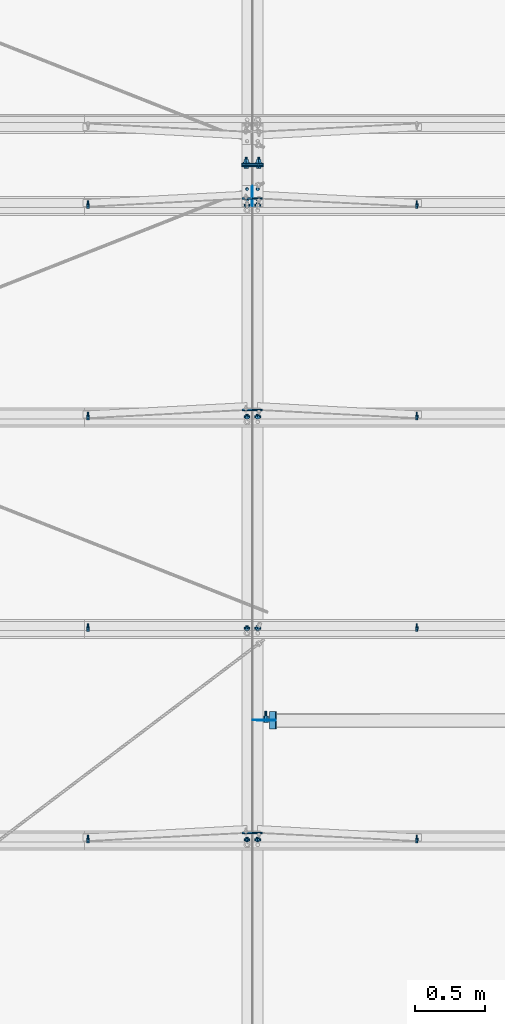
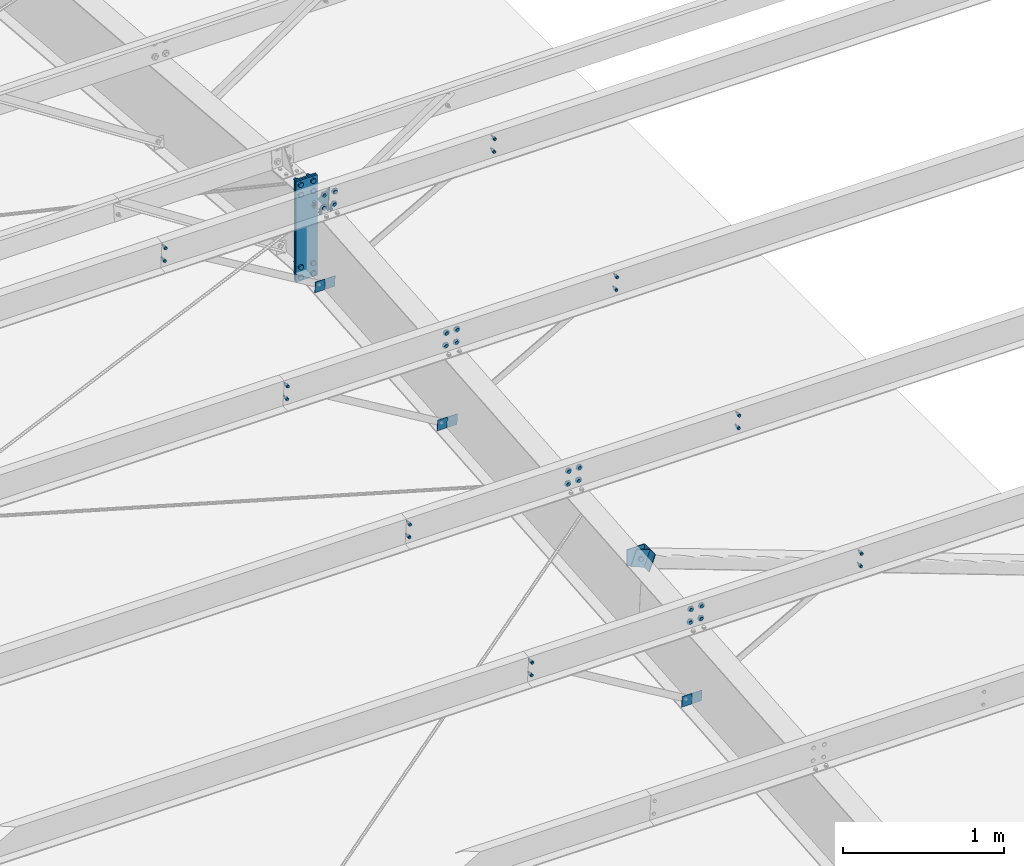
# One storey, part 107 of 185: 20 mechanical fasteners, 12 discrete accessories, 12 elements without a shape of their own.
"""IFC2X3 building model written with IfcOpenShell, lengths in millimetres."""

from ifc_helpers import new_model, si_unit, frame, origin_with_axes, origin_2d_with_axis, place, context, subcontext, project, spatial, polyline, rectangle, circle, outline, extrude, source, transform, mapped, material, type_object, element, aggregate, save


model = new_model("IFC2X3")

# Units and contexts
model_context = context("Model", 3, precision=1e-05, world=origin_with_axes())
body_context = subcontext(model_context, "Body", "Model", "MODEL_VIEW")
ifc_project = project(units=[si_unit("LENGTHUNIT", "METRE", prefix="MILLI"), si_unit("AREAUNIT", "SQUARE_METRE"), si_unit("VOLUMEUNIT", "CUBIC_METRE"), si_unit("MASSUNIT", "GRAM", prefix="KILO"), si_unit("TIMEUNIT", "SECOND"), si_unit("PLANEANGLEUNIT", "RADIAN"), si_unit("SOLIDANGLEUNIT", "STERADIAN"), si_unit("THERMODYNAMICTEMPERATUREUNIT", "DEGREE_CELSIUS"), si_unit("LUMINOUSINTENSITYUNIT", "LUMEN")], contexts=[model_context])

# Site, building, storey
site_placement = place(None, origin_with_axes())
site = spatial("IfcSite", under=ifc_project, at=site_placement, Name="Undefined", CompositionType="ELEMENT")
building_placement = place(site_placement, origin_with_axes())
building = spatial("IfcBuilding", under=site, at=building_placement, Name="Undefined", CompositionType="ELEMENT")
storey_placement = place(building_placement, origin_with_axes())
storey = spatial("IfcBuildingStorey", under=building, at=storey_placement, Name="Undefined", CompositionType="ELEMENT", Elevation=0.0)

# Assembly, mechanical fastener
assembly_1_placement = place(storey_placement, origin_with_axes())
assembly_1 = element("IfcElementAssembly", 1, at=assembly_1_placement, inside=storey, Name="Steel Assembly", AssemblyPlace="NOTDEFINED", PredefinedType="RIGID_FRAME")
ifc_material_1 = material(Name="Undefined")
discrete_accessory_type_1 = type_object("IfcDiscreteAccessoryType", Name="Bolt assembly")
shared_shape_1 = source(origin_with_axes(), body_context, "Body", "SweptSolid", [
    extrude(circle(Radius=7.14374971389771, at=origin_2d_with_axis()), frame((0.0, -1.59000001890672, 0.0), z_axis=(0.0, 1.0, 0.0), x_axis=(1.0, 0.0, 0.0)), (0.0, 0.0, 1.0), 3.3),
    extrude(circle(Radius=13.4937496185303, at=origin_2d_with_axis()), frame((0.0, -5.5587500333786, 0.0), z_axis=(0.0, 1.0, 0.0), x_axis=(1.0, 0.0, 0.0)), (0.0, 0.0, 1.0), 4.0),
    extrude(circle(Radius=22.2250003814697, at=origin_2d_with_axis()), frame((0.0, 1.5900000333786, 0.0), z_axis=(0.0, 1.0, 0.0), x_axis=(1.0, 0.0, 0.0)), (0.0, 0.0, 1.0), 7.9),
    extrude(outline(polyline([(12.8316099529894, 0.0), (6.4158049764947, 11.1125001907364), (-6.4158049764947, 11.1125001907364), (-12.8316099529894, 0.0), (-6.4158049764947, -11.1125001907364), (6.4158049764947, -11.1125001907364), (12.8316099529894, 0.0)])), frame((0.0, 9.5275000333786, 0.0), z_axis=(0.0, 1.0, 0.0), x_axis=(1.0, 0.0, 0.0)), (0.0, 0.0, 1.0), 12.3),
])
mechanical_fastener_1_placement = place(assembly_1_placement, frame((37757.1, 11146.2647809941, 6973.87931659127), z_axis=(1.0, 0.0, 0.0), x_axis=(0.0, 0.0830454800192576, -0.996545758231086)))
mechanical_fastener_1 = element("IfcMechanicalFastener", 2, at=mechanical_fastener_1_placement, type_object=discrete_accessory_type_1, material=ifc_material_1, Name="Bolt assembly", NominalDiameter=12.6999998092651, NominalLength=38.0999984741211, context=body_context, shape_type="MappedRepresentation", body=[
    mapped(shared_shape_1, transform((0.0, 0.0, 0.0))),
    mapped(shared_shape_1, transform((101.599998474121, 0.0, 0.0))),
])
aggregate(assembly_1, [mechanical_fastener_1])

assembly_2_placement = place(storey_placement, origin_with_axes())
assembly_2 = element("IfcElementAssembly", 3, at=assembly_2_placement, inside=storey, Name="Steel Assembly", AssemblyPlace="NOTDEFINED", PredefinedType="RIGID_FRAME")
mechanical_fastener_2_placement = place(assembly_2_placement, frame((37680.9, 11146.2647809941, 6973.87931659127), z_axis=(1.0, 0.0, 0.0), x_axis=(0.0, 0.0830454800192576, -0.996545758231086)))
mechanical_fastener_2 = element("IfcMechanicalFastener", 4, at=mechanical_fastener_2_placement, type_object=discrete_accessory_type_1, material=ifc_material_1, Name="Bolt assembly", NominalDiameter=12.6999998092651, NominalLength=38.0999984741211, context=body_context, shape_type="MappedRepresentation", body=[
    mapped(shared_shape_1, transform((0.0, 0.0, 0.0))),
    mapped(shared_shape_1, transform((101.599998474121, 0.0, 0.0))),
])

assembly_3_placement = place(storey_placement, origin_with_axes())
assembly_3 = element("IfcElementAssembly", 5, at=assembly_3_placement, inside=storey, Name="Steel Assembly", AssemblyPlace="NOTDEFINED", PredefinedType="RIGID_FRAME")
mechanical_fastener_3_placement = place(assembly_3_placement, frame((37757.1, 12665.0005165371, 7100.44062814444), z_axis=(1.0, 0.0, 0.0), x_axis=(0.0, 0.0830454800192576, -0.996545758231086)))
mechanical_fastener_3 = element("IfcMechanicalFastener", 6, at=mechanical_fastener_3_placement, type_object=discrete_accessory_type_1, material=ifc_material_1, Name="Bolt assembly", NominalDiameter=12.6999998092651, NominalLength=38.0999984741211, context=body_context, shape_type="MappedRepresentation", body=[
    mapped(shared_shape_1, transform((0.0, 0.0, 0.0))),
    mapped(shared_shape_1, transform((101.599998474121, 0.0, 0.0))),
])
aggregate(assembly_3, [mechanical_fastener_3])

assembly_4_placement = place(storey_placement, origin_with_axes())
assembly_4 = element("IfcElementAssembly", 7, at=assembly_4_placement, inside=storey, Name="Steel Assembly", AssemblyPlace="NOTDEFINED", PredefinedType="RIGID_FRAME")
mechanical_fastener_4_placement = place(assembly_4_placement, frame((37680.9, 12665.0005165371, 7100.44062814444), z_axis=(1.0, 0.0, 0.0), x_axis=(0.0, 0.0830454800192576, -0.996545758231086)))
mechanical_fastener_4 = element("IfcMechanicalFastener", 8, at=mechanical_fastener_4_placement, type_object=discrete_accessory_type_1, material=ifc_material_1, Name="Bolt assembly", NominalDiameter=12.6999998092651, NominalLength=38.0999984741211, context=body_context, shape_type="MappedRepresentation", body=[
    mapped(shared_shape_1, transform((0.0, 0.0, 0.0))),
    mapped(shared_shape_1, transform((101.599998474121, 0.0, 0.0))),
])

assembly_5_placement = place(storey_placement, origin_with_axes())
assembly_5 = element("IfcElementAssembly", 9, at=assembly_5_placement, inside=storey, Name="Steel Assembly", AssemblyPlace="NOTDEFINED", PredefinedType="RIGID_FRAME")
mechanical_fastener_5_placement = place(assembly_5_placement, frame((37757.1, 14183.7362520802, 7227.0019396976), z_axis=(1.0, 0.0, 0.0), x_axis=(0.0, 0.0830454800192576, -0.996545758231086)))
mechanical_fastener_5 = element("IfcMechanicalFastener", 10, at=mechanical_fastener_5_placement, type_object=discrete_accessory_type_1, material=ifc_material_1, Name="Bolt assembly", NominalDiameter=12.6999998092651, NominalLength=38.0999984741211, context=body_context, shape_type="MappedRepresentation", body=[
    mapped(shared_shape_1, transform((0.0, 0.0, 0.0))),
    mapped(shared_shape_1, transform((101.599998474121, 0.0, 0.0))),
])
aggregate(assembly_5, [mechanical_fastener_5])

assembly_6_placement = place(storey_placement, origin_with_axes())
assembly_6 = element("IfcElementAssembly", 11, at=assembly_6_placement, inside=storey, Name="Steel Assembly", AssemblyPlace="NOTDEFINED", PredefinedType="RIGID_FRAME")
mechanical_fastener_6_placement = place(assembly_6_placement, frame((37680.9, 14183.7362520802, 7227.0019396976), z_axis=(1.0, 0.0, 0.0), x_axis=(0.0, 0.0830454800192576, -0.996545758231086)))
mechanical_fastener_6 = element("IfcMechanicalFastener", 12, at=mechanical_fastener_6_placement, type_object=discrete_accessory_type_1, material=ifc_material_1, Name="Bolt assembly", NominalDiameter=12.6999998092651, NominalLength=38.0999984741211, context=body_context, shape_type="MappedRepresentation", body=[
    mapped(shared_shape_1, transform((0.0, 0.0, 0.0))),
    mapped(shared_shape_1, transform((101.599998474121, 0.0, 0.0))),
])

assembly_7_placement = place(storey_placement, origin_with_axes())
assembly_7 = element("IfcElementAssembly", 13, at=assembly_7_placement, inside=storey, Name="Steel Assembly", AssemblyPlace="NOTDEFINED", PredefinedType="RIGID_FRAME")
mechanical_fastener_7_placement = place(assembly_7_placement, frame((37757.1, 15702.4719876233, 7353.56325125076), z_axis=(1.0, 0.0, 0.0), x_axis=(0.0, 0.0830454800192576, -0.996545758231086)))
mechanical_fastener_7 = element("IfcMechanicalFastener", 14, at=mechanical_fastener_7_placement, type_object=discrete_accessory_type_1, material=ifc_material_1, Name="Bolt assembly", NominalDiameter=12.6999998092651, NominalLength=38.0999984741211, context=body_context, shape_type="MappedRepresentation", body=[
    mapped(shared_shape_1, transform((0.0, 0.0, 0.0))),
    mapped(shared_shape_1, transform((101.599998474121, 0.0, 0.0))),
])
aggregate(assembly_7, [mechanical_fastener_7])

assembly_8_placement = place(storey_placement, origin_with_axes())
assembly_8 = element("IfcElementAssembly", 15, at=assembly_8_placement, inside=storey, Name="Steel Assembly", AssemblyPlace="NOTDEFINED", PredefinedType="RIGID_FRAME")
mechanical_fastener_8_placement = place(assembly_8_placement, frame((37680.9, 15702.4719876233, 7353.56325125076), z_axis=(1.0, 0.0, 0.0), x_axis=(0.0, 0.0830454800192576, -0.996545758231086)))
mechanical_fastener_8 = element("IfcMechanicalFastener", 16, at=mechanical_fastener_8_placement, type_object=discrete_accessory_type_1, material=ifc_material_1, Name="Bolt assembly", NominalDiameter=12.6999998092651, NominalLength=38.0999984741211, context=body_context, shape_type="MappedRepresentation", body=[
    mapped(shared_shape_1, transform((0.0, 0.0, 0.0))),
    mapped(shared_shape_1, transform((101.599998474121, 0.0, 0.0))),
])

# Assembly, discrete accessories
assembly_9_placement = place(storey_placement, origin_with_axes())
assembly_9 = element("IfcElementAssembly", 17, at=assembly_9_placement, inside=storey, Name="Steel Assembly", AssemblyPlace="NOTDEFINED", PredefinedType="RIGID_FRAME")
ifc_material_2 = material(Name="STEEL/55")
discrete_accessory_type_2 = type_object("IfcDiscreteAccessoryType", Name="PLATE")
discrete_accessory_1_placement = place(assembly_9_placement, frame((37794.0748950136, 12013.7535961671, 6730.43175665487), z_axis=(-0.938292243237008, 0.000372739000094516, 0.345843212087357), x_axis=(0.345843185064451, -0.000137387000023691, 0.938292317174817)))
discrete_accessory_1 = element("IfcDiscreteAccessory", 18, at=discrete_accessory_1_placement, type_object=discrete_accessory_type_2, material=ifc_material_2, Name="PLATE", ObjectType="FL1/4\"X4\"", context=body_context, shape_type="SweptSolid", body=[
    extrude(rectangle(XDim=6.35, YDim=101.6, at=origin_2d_with_axis()), frame((127.000000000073, 3.63797855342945e-12, 7.27595761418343e-12), z_axis=(-1.0, 0.0, 0.0), x_axis=(0.0, -1.0, 0.0)), (0.0, 0.0, 1.0), 127.0),
])
discrete_accessory_2_placement = place(assembly_9_placement, frame((37888.6413033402, 12013.716029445, 6830.92799354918), z_axis=(0.000397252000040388, 0.999999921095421, 0.0), x_axis=(-0.345843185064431, 0.000137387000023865, -0.938292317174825)))
discrete_accessory_2 = element("IfcDiscreteAccessory", 19, at=discrete_accessory_2_placement, type_object=discrete_accessory_type_2, material=ifc_material_2, Name="PLATE", ObjectType="FL1/4\"X5\"", context=body_context, shape_type="SweptSolid", body=[
    extrude(rectangle(XDim=6.35, YDim=127.0, at=origin_2d_with_axis()), frame((127.000000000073, 3.63797855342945e-12, 7.27595761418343e-12), z_axis=(-1.0, 0.0, 0.0), x_axis=(0.0, -1.0, 0.0)), (0.0, 0.0, 1.0), 127.0),
])

# Assembly, discrete accessory
assembly_10_placement = place(storey_placement, origin_with_axes())
assembly_10 = element("IfcElementAssembly", 20, at=assembly_10_placement, inside=storey, Name="Steel Assembly", AssemblyPlace="NOTDEFINED", PredefinedType="RIGID_FRAME")
discrete_accessory_3_placement = place(assembly_10_placement, frame((37719.0, 15853.8182223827, 7219.61919679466), z_axis=(-1.0, 0.0, 0.0), x_axis=(0.0, -0.996545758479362, -0.0830454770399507)))
discrete_accessory_3 = element("IfcDiscreteAccessory", 21, at=discrete_accessory_3_placement, type_object=discrete_accessory_type_2, material=ifc_material_2, Name="PLATE", ObjectType="FL1/4\"X5 1/4\"", context=body_context, shape_type="SweptSolid", body=[
    extrude(outline(polyline([(0.0, 0.0), (133.350006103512, 3.70164343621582e-10), (133.350006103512, 190.500000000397), (0.0, 0.0)])), frame((0.0, -9.09494701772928e-13, -3.2), z_axis=(0.0, 0.0, 1.0), x_axis=(1.0, 0.0, 0.0)), (0.0, 0.0, 1.0), 6.4),
])

# Assembly, discrete accessories
assembly_11_placement = place(storey_placement, origin_with_axes())
assembly_11 = element("IfcElementAssembly", 22, at=assembly_11_placement, inside=storey, Name="Steel Assembly", AssemblyPlace="NOTDEFINED", PredefinedType="RIGID_FRAME")
discrete_accessory_4_placement = place(assembly_11_placement, frame((37847.785937, 12016.919869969, 6821.76331804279), z_axis=(0.0, 0.0, 1.0), x_axis=(-1.0, 0.0, 0.0)))
discrete_accessory_4 = element("IfcDiscreteAccessory", 23, at=discrete_accessory_4_placement, type_object=discrete_accessory_type_2, material=ifc_material_2, Name="PLATE", ObjectType="FL1/4\"X5\"", context=body_context, shape_type="SweptSolid", body=[
    extrude(rectangle(XDim=6.35, YDim=127.0, at=origin_2d_with_axis()), frame((127.000000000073, 3.63797855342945e-12, 7.27595761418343e-12), z_axis=(-1.0, 0.0, 0.0), x_axis=(0.0, -1.0, 0.0)), (0.0, 0.0, 1.0), 127.0),
])
discrete_accessory_type_3 = type_object("IfcDiscreteAccessoryType", Name="FLANGE BRACE FLIP")
discrete_accessory_5_placement = place(assembly_11_placement, frame((37720.70815, 15761.1512342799, 6628.84524774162), z_axis=(0.0, -0.0830454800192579, 0.996545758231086), x_axis=(1.0, 0.0, 0.0)))
discrete_accessory_5 = element("IfcDiscreteAccessory", 24, at=discrete_accessory_5_placement, type_object=discrete_accessory_type_3, material=ifc_material_2, Name="FLANGE BRACE FLIP", ObjectType="PL1/8\"X2 3/4\"", context=body_context, shape_type="SweptSolid", body=[
    extrude(rectangle(XDim=3.416, YDim=85.725, at=origin_2d_with_axis()), frame((69.8499999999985, 0.0, 0.0), z_axis=(-1.0, 0.0, 0.0), x_axis=(0.0, -1.0, 0.0)), (0.0, 0.0, 1.0), 69.8),
])
discrete_accessory_6_placement = place(assembly_11_placement, frame((37717.29185, 15761.1512342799, 6628.84524774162), z_axis=(0.0, -0.0830454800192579, 0.996545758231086), x_axis=(-1.0, 0.0, 0.0)))
discrete_accessory_6 = element("IfcDiscreteAccessory", 25, at=discrete_accessory_6_placement, type_object=discrete_accessory_type_3, material=ifc_material_2, Name="FLANGE BRACE FLIP", ObjectType="PL1/8\"X2 3/4\"", context=body_context, shape_type="SweptSolid", body=[
    extrude(rectangle(XDim=3.416, YDim=85.725, at=origin_2d_with_axis()), frame((69.8499999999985, 0.0, 0.0), z_axis=(-1.0, 0.0, 0.0), x_axis=(0.0, -1.0, 0.0)), (0.0, 0.0, 1.0), 69.8),
])
discrete_accessory_7_placement = place(assembly_11_placement, frame((37720.70815, 14242.4154987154, 6502.28393644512), z_axis=(0.0, -0.0830454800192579, 0.996545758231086), x_axis=(1.0, 0.0, 0.0)))
discrete_accessory_7 = element("IfcDiscreteAccessory", 26, at=discrete_accessory_7_placement, type_object=discrete_accessory_type_3, material=ifc_material_2, Name="FLANGE BRACE FLIP", ObjectType="PL1/8\"X2 3/4\"", context=body_context, shape_type="SweptSolid", body=[
    extrude(rectangle(XDim=3.416, YDim=85.725, at=origin_2d_with_axis()), frame((69.8499999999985, 0.0, 0.0), z_axis=(-1.0, 0.0, 0.0), x_axis=(0.0, -1.0, 0.0)), (0.0, 0.0, 1.0), 69.8),
])
discrete_accessory_8_placement = place(assembly_11_placement, frame((37717.29185, 14242.4154987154, 6502.28393644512), z_axis=(0.0, -0.0830454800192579, 0.996545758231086), x_axis=(-1.0, 0.0, 0.0)))
discrete_accessory_8 = element("IfcDiscreteAccessory", 27, at=discrete_accessory_8_placement, type_object=discrete_accessory_type_3, material=ifc_material_2, Name="FLANGE BRACE FLIP", ObjectType="PL1/8\"X2 3/4\"", context=body_context, shape_type="SweptSolid", body=[
    extrude(rectangle(XDim=3.416, YDim=85.725, at=origin_2d_with_axis()), frame((69.8499999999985, 0.0, 0.0), z_axis=(-1.0, 0.0, 0.0), x_axis=(0.0, -1.0, 0.0)), (0.0, 0.0, 1.0), 69.8),
])
discrete_accessory_9_placement = place(assembly_11_placement, frame((37720.70815, 11204.9440275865, 6249.16131385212), z_axis=(0.0, -0.0830454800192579, 0.996545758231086), x_axis=(1.0, 0.0, 0.0)))
discrete_accessory_9 = element("IfcDiscreteAccessory", 28, at=discrete_accessory_9_placement, type_object=discrete_accessory_type_3, material=ifc_material_2, Name="FLANGE BRACE FLIP", ObjectType="PL1/8\"X2 3/4\"", context=body_context, shape_type="SweptSolid", body=[
    extrude(rectangle(XDim=3.416, YDim=85.725, at=origin_2d_with_axis()), frame((69.8499999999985, 0.0, 0.0), z_axis=(-1.0, 0.0, 0.0), x_axis=(0.0, -1.0, 0.0)), (0.0, 0.0, 1.0), 69.8),
])
discrete_accessory_10_placement = place(assembly_11_placement, frame((37717.29185, 11204.9440275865, 6249.16131385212), z_axis=(0.0, -0.0830454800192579, 0.996545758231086), x_axis=(-1.0, 0.0, 0.0)))
discrete_accessory_10 = element("IfcDiscreteAccessory", 29, at=discrete_accessory_10_placement, type_object=discrete_accessory_type_3, material=ifc_material_2, Name="FLANGE BRACE FLIP", ObjectType="PL1/8\"X2 3/4\"", context=body_context, shape_type="SweptSolid", body=[
    extrude(rectangle(XDim=3.416, YDim=85.725, at=origin_2d_with_axis()), frame((69.8499999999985, 0.0, 0.0), z_axis=(-1.0, 0.0, 0.0), x_axis=(0.0, -1.0, 0.0)), (0.0, 0.0, 1.0), 69.8),
])

# Mechanical fastener
shared_shape_2 = source(origin_with_axes(), body_context, "Body", "SweptSolid", [
    extrude(circle(Radius=10.3187494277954, at=origin_2d_with_axis()), frame((0.0, -0.1, 0.0), z_axis=(0.0, 1.0, 0.0), x_axis=(1.0, 0.0, 0.0)), (0.0, 0.0, 1.0), 6.4),
    extrude(circle(Radius=10.3187494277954, at=origin_2d_with_axis()), frame((0.0, -3.07500000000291, 0.0), z_axis=(0.0, 1.0, 0.0), x_axis=(1.0, 0.0, 0.0)), (0.0, 0.0, 1.0), 6.4),
    extrude(outline(polyline([(18.3308710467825, 0.0), (9.16543552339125, 15.8750000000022), (-9.16543552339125, 15.8750000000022), (-18.3308710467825, 0.0), (-9.16543552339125, -15.8750000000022), (9.16543552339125, -15.8750000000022), (18.3308710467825, 0.0)])), frame((0.0, -15.0812481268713, 0.0), z_axis=(0.0, 1.0, 0.0), x_axis=(1.0, 0.0, 0.0)), (0.0, 0.0, 1.0), 11.9),
    extrude(circle(Radius=9.52499961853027, at=origin_2d_with_axis()), frame((0.0, -3.17500610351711, 0.0), z_axis=(0.0, 1.0, 0.0), x_axis=(1.0, 0.0, 0.0)), (0.0, 0.0, 1.0), 69.8),
    extrude(circle(Radius=22.2250003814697, at=origin_2d_with_axis()), frame((0.0, 6.35000000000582, 0.0), z_axis=(0.0, 1.0, 0.0), x_axis=(1.0, 0.0, 0.0)), (0.0, 0.0, 1.0), 7.9),
    extrude(outline(polyline([(18.3308710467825, 0.0), (9.16543552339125, 15.8750000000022), (-9.16543552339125, 15.8750000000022), (-18.3308710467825, 0.0), (-9.16543552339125, -15.8750000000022), (9.16543552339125, -15.8750000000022), (18.3308710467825, 0.0)])), frame((0.0, 14.2875000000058, 0.0), z_axis=(0.0, 1.0, 0.0), x_axis=(1.0, 0.0, 0.0)), (0.0, 0.0, 1.0), 19.0),
])
mechanical_fastener_9_placement = place(assembly_9_placement, frame((37816.035937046, 12013.7448699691, 6790.01331805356), z_axis=(0.0, 0.0, -1.0), x_axis=(-1.0, 0.0, 0.0)))
mechanical_fastener_9 = element("IfcMechanicalFastener", 30, at=mechanical_fastener_9_placement, type_object=discrete_accessory_type_1, material=ifc_material_1, Name="Bolt assembly", NominalDiameter=19.0499992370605, NominalLength=69.8499984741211, context=body_context, shape_type="MappedRepresentation", body=[
    mapped(shared_shape_2, transform((0.0, 0.0, 0.0))),
])

aggregate(assembly_9, [discrete_accessory_1, discrete_accessory_2, mechanical_fastener_9])

shared_shape_3 = source(origin_with_axes(), body_context, "Body", "SweptSolid", [
    extrude(circle(Radius=7.14374971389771, at=origin_2d_with_axis()), frame((0.0, -0.0238014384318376, 0.0), z_axis=(0.0, 1.0, 0.0), x_axis=(1.0, 0.0, 0.0)), (0.0, 0.0, 1.0), 8.0),
    extrude(circle(Radius=7.14374971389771, at=origin_2d_with_axis()), frame((0.0, -6.24999999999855, 0.0), z_axis=(0.0, 1.0, 0.0), x_axis=(1.0, 0.0, 0.0)), (0.0, 0.0, 1.0), 6.4),
    extrude(outline(polyline([(10.9985221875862, 0.0), (5.4992610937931, 9.52499961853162), (-5.4992610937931, 9.52499961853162), (-10.9985221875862, 0.0), (-5.4992610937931, -9.52499961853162), (5.4992610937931, -9.52499961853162), (10.9985221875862, 0.0)])), frame((0.0, -15.8750000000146, 0.0), z_axis=(0.0, 1.0, 0.0), x_axis=(1.0, 0.0, 0.0)), (0.0, 0.0, 1.0), 9.5),
    extrude(circle(Radius=6.34999990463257, at=origin_2d_with_axis()), frame((0.0, -6.34999953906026, 0.0), z_axis=(0.0, 1.0, 0.0), x_axis=(1.0, 0.0, 0.0)), (0.0, 0.0, 1.0), 38.1),
    extrude(outline(polyline([(12.8316099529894, 0.0), (6.4158049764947, 11.1125001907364), (-6.4158049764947, 11.1125001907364), (-12.8316099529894, 0.0), (-6.4158049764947, -11.1125001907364), (6.4158049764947, -11.1125001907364), (12.8316099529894, 0.0)])), frame((0.0, 7.95019856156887, 0.0), z_axis=(0.0, 1.0, 0.0), x_axis=(1.0, 0.0, 0.0)), (0.0, 0.0, 1.0), 12.3),
])
mechanical_fastener_10_placement = place(assembly_10_placement, frame((37719.0, 15753.0965121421, 7204.85371047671), z_axis=(-1.0, 0.0, 0.0), x_axis=(0.0, 0.996545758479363, 0.0830454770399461)))
mechanical_fastener_10 = element("IfcMechanicalFastener", 31, at=mechanical_fastener_10_placement, type_object=discrete_accessory_type_1, material=ifc_material_1, Name="Bolt assembly", NominalDiameter=12.6999998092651, NominalLength=38.0999984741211, context=body_context, shape_type="MappedRepresentation", body=[
    mapped(shared_shape_3, transform((0.0, 0.0, -38.0999984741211))),
    mapped(shared_shape_3, transform((76.1999969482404, -1.38243194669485e-10, -38.0999984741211))),
    mapped(shared_shape_3, transform((0.0, 0.0, 38.0999984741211))),
    mapped(shared_shape_3, transform((76.1999969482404, -1.38243194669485e-10, 38.0999984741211))),
])

aggregate(assembly_10, [mechanical_fastener_10, discrete_accessory_3])

shared_shape_4 = source(origin_with_axes(), body_context, "Body", "SweptSolid", [
    extrude(circle(Radius=10.3187494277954, at=origin_2d_with_axis()), frame((0.0, -0.1, 0.0), z_axis=(0.0, 1.0, 0.0), x_axis=(1.0, 0.0, 0.0)), (0.0, 0.0, 1.0), 12.8),
    extrude(circle(Radius=10.3187494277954, at=origin_2d_with_axis()), frame((0.0, -12.5999999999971, 0.0), z_axis=(0.0, 1.0, 0.0), x_axis=(1.0, 0.0, 0.0)), (0.0, 0.0, 1.0), 12.7),
    extrude(outline(polyline([(18.3308710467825, 0.0), (9.16543552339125, 15.8750000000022), (-9.16543552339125, 15.8750000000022), (-18.3308710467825, 0.0), (-9.16543552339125, -15.8750000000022), (9.16543552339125, -15.8750000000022), (18.3308710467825, 0.0)])), frame((0.0, -24.6062499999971, 0.0), z_axis=(0.0, 1.0, 0.0), x_axis=(1.0, 0.0, 0.0)), (0.0, 0.0, 1.0), 11.9),
    extrude(circle(Radius=9.52499961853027, at=origin_2d_with_axis()), frame((0.0, -12.6999999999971, 0.0), z_axis=(0.0, 1.0, 0.0), x_axis=(1.0, 0.0, 0.0)), (0.0, 0.0, 1.0), 69.8),
    extrude(circle(Radius=22.2250003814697, at=origin_2d_with_axis()), frame((0.0, 12.6999999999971, 0.0), z_axis=(0.0, 1.0, 0.0), x_axis=(1.0, 0.0, 0.0)), (0.0, 0.0, 1.0), 7.9),
    extrude(outline(polyline([(18.3308710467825, 0.0), (9.16543552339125, 15.8750000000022), (-9.16543552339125, 15.8750000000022), (-18.3308710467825, 0.0), (-9.16543552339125, -15.8750000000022), (9.16543552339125, -15.8750000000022), (18.3308710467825, 0.0)])), frame((0.0, 20.6374999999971, 0.0), z_axis=(0.0, 1.0, 0.0), x_axis=(1.0, 0.0, 0.0)), (0.0, 0.0, 1.0), 19.0),
])
mechanical_fastener_11_placement = place(assembly_11_placement, frame((37719.0, 16001.9999999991, 6561.9804128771), z_axis=(-1.0, 0.0, 0.0), x_axis=(0.0, 0.0, 1.0)))
mechanical_fastener_11 = element("IfcMechanicalFastener", 32, at=mechanical_fastener_11_placement, type_object=discrete_accessory_type_1, material=ifc_material_1, Name="Bolt assembly", NominalDiameter=19.0499992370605, NominalLength=69.8499984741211, context=body_context, shape_type="MappedRepresentation", body=[
    mapped(shared_shape_4, transform((0.0, 0.0, -44.4500007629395))),
    mapped(shared_shape_4, transform((76.1999969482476, 0.0, -44.4500007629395))),
    mapped(shared_shape_4, transform((0.0, 0.0, 44.4500007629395))),
    mapped(shared_shape_4, transform((76.1999969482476, 0.0, 44.4500007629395))),
])

mechanical_fastener_12_placement = place(assembly_11_placement, frame((37719.0, 16001.9999999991, 7262.06791218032), z_axis=(1.0, 0.0, 0.0), x_axis=(0.0, 0.0, -1.0)))
mechanical_fastener_12 = element("IfcMechanicalFastener", 33, at=mechanical_fastener_12_placement, type_object=discrete_accessory_type_1, material=ifc_material_1, Name="Bolt assembly", NominalDiameter=19.0499992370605, NominalLength=69.8499984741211, context=body_context, shape_type="MappedRepresentation", body=[
    mapped(shared_shape_4, transform((0.0, 0.0, -44.4500007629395))),
    mapped(shared_shape_4, transform((76.1999969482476, 0.0, -44.4500007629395))),
    mapped(shared_shape_4, transform((0.0, 0.0, 44.4500007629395))),
    mapped(shared_shape_4, transform((76.1999969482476, 0.0, 44.4500007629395))),
])

shared_shape_5 = source(origin_with_axes(), body_context, "Body", "SweptSolid", [
    extrude(circle(Radius=7.14374971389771, at=origin_2d_with_axis()), frame((0.0, -1.4900000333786, 0.0), z_axis=(0.0, 1.0, 0.0), x_axis=(1.0, 0.0, 0.0)), (0.0, 0.0, 1.0), 3.2),
    extrude(circle(Radius=7.14374971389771, at=origin_2d_with_axis()), frame((0.0, -1.69000003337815, 0.0), z_axis=(0.0, 1.0, 0.0), x_axis=(1.0, 0.0, 0.0)), (0.0, 0.0, 1.0), 3.3),
    extrude(outline(polyline([(10.9985221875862, 0.0), (5.4992610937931, 9.52499961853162), (-5.4992610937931, 9.52499961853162), (-10.9985221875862, 0.0), (-5.4992610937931, -9.52499961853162), (5.4992610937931, -9.52499961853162), (10.9985221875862, 0.0)])), frame((0.0, -11.1149996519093, 0.0), z_axis=(0.0, 1.0, 0.0), x_axis=(1.0, 0.0, 0.0)), (0.0, 0.0, 1.0), 9.5),
    extrude(circle(Radius=6.34999990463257, at=origin_2d_with_axis()), frame((0.0, -1.59000001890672, 0.0), z_axis=(0.0, 1.0, 0.0), x_axis=(1.0, 0.0, 0.0)), (0.0, 0.0, 1.0), 38.1),
    extrude(outline(polyline([(12.8316099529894, 0.0), (6.4158049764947, 11.1125001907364), (-6.4158049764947, 11.1125001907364), (-12.8316099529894, 0.0), (-6.4158049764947, -11.1125001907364), (6.4158049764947, -11.1125001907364), (12.8316099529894, 0.0)])), frame((0.0, 1.5900000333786, 0.0), z_axis=(0.0, 1.0, 0.0), x_axis=(1.0, 0.0, 0.0)), (0.0, 0.0, 1.0), 12.3),
])
mechanical_fastener_13_placement = place(assembly_2_placement, frame((38900.1, 11146.2647809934, 6973.87931658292), z_axis=(1.0, 0.0, 0.0), x_axis=(0.0, 0.0830454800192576, -0.996545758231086)))
mechanical_fastener_13 = element("IfcMechanicalFastener", 34, at=mechanical_fastener_13_placement, type_object=discrete_accessory_type_1, material=ifc_material_1, Name="Bolt assembly", NominalDiameter=12.6999998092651, NominalLength=38.0999984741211, context=body_context, shape_type="MappedRepresentation", body=[
    mapped(shared_shape_5, transform((0.0, 0.0, 0.0))),
    mapped(shared_shape_5, transform((101.599998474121, 0.0, 0.0))),
])

mechanical_fastener_14_placement = place(assembly_2_placement, frame((36537.9, 11146.2647809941, 6973.87931659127), z_axis=(1.0, 0.0, 0.0), x_axis=(0.0, 0.0830454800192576, -0.996545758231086)))
mechanical_fastener_14 = element("IfcMechanicalFastener", 35, at=mechanical_fastener_14_placement, type_object=discrete_accessory_type_1, material=ifc_material_1, Name="Bolt assembly", NominalDiameter=12.6999998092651, NominalLength=38.0999984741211, context=body_context, shape_type="MappedRepresentation", body=[
    mapped(shared_shape_5, transform((0.0, 0.0, 0.0))),
    mapped(shared_shape_5, transform((101.599998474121, 0.0, 0.0))),
])

aggregate(assembly_2, [mechanical_fastener_2, mechanical_fastener_13, mechanical_fastener_14])

mechanical_fastener_15_placement = place(assembly_4_placement, frame((38900.1, 12665.0005165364, 7100.44062813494), z_axis=(1.0, 0.0, 0.0), x_axis=(0.0, 0.0830454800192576, -0.996545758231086)))
mechanical_fastener_15 = element("IfcMechanicalFastener", 36, at=mechanical_fastener_15_placement, type_object=discrete_accessory_type_1, material=ifc_material_1, Name="Bolt assembly", NominalDiameter=12.6999998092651, NominalLength=38.0999984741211, context=body_context, shape_type="MappedRepresentation", body=[
    mapped(shared_shape_5, transform((0.0, 0.0, 0.0))),
    mapped(shared_shape_5, transform((101.599998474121, 0.0, 0.0))),
])

mechanical_fastener_16_placement = place(assembly_4_placement, frame((36537.9, 12665.0005165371, 7100.44062814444), z_axis=(1.0, 0.0, 0.0), x_axis=(0.0, 0.0830454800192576, -0.996545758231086)))
mechanical_fastener_16 = element("IfcMechanicalFastener", 37, at=mechanical_fastener_16_placement, type_object=discrete_accessory_type_1, material=ifc_material_1, Name="Bolt assembly", NominalDiameter=12.6999998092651, NominalLength=38.0999984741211, context=body_context, shape_type="MappedRepresentation", body=[
    mapped(shared_shape_5, transform((0.0, 0.0, 0.0))),
    mapped(shared_shape_5, transform((101.599998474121, 0.0, 0.0))),
])

aggregate(assembly_4, [mechanical_fastener_4, mechanical_fastener_15, mechanical_fastener_16])

mechanical_fastener_17_placement = place(assembly_6_placement, frame((38900.1, 14183.7362520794, 7227.00193968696), z_axis=(1.0, 0.0, 0.0), x_axis=(0.0, 0.0830454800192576, -0.996545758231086)))
mechanical_fastener_17 = element("IfcMechanicalFastener", 38, at=mechanical_fastener_17_placement, type_object=discrete_accessory_type_1, material=ifc_material_1, Name="Bolt assembly", NominalDiameter=12.6999998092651, NominalLength=38.0999984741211, context=body_context, shape_type="MappedRepresentation", body=[
    mapped(shared_shape_5, transform((0.0, 0.0, 0.0))),
    mapped(shared_shape_5, transform((101.599998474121, 0.0, 0.0))),
])

mechanical_fastener_18_placement = place(assembly_6_placement, frame((36537.9, 14183.7362520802, 7227.0019396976), z_axis=(1.0, 0.0, 0.0), x_axis=(0.0, 0.0830454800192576, -0.996545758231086)))
mechanical_fastener_18 = element("IfcMechanicalFastener", 39, at=mechanical_fastener_18_placement, type_object=discrete_accessory_type_1, material=ifc_material_1, Name="Bolt assembly", NominalDiameter=12.6999998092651, NominalLength=38.0999984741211, context=body_context, shape_type="MappedRepresentation", body=[
    mapped(shared_shape_5, transform((0.0, 0.0, 0.0))),
    mapped(shared_shape_5, transform((101.599998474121, 0.0, 0.0))),
])

aggregate(assembly_6, [mechanical_fastener_6, mechanical_fastener_17, mechanical_fastener_18])

mechanical_fastener_19_placement = place(assembly_8_placement, frame((38900.1, 15702.4719876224, 7353.56325123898), z_axis=(1.0, 0.0, 0.0), x_axis=(0.0, 0.0830454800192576, -0.996545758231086)))
mechanical_fastener_19 = element("IfcMechanicalFastener", 40, at=mechanical_fastener_19_placement, type_object=discrete_accessory_type_1, material=ifc_material_1, Name="Bolt assembly", NominalDiameter=12.6999998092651, NominalLength=38.0999984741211, context=body_context, shape_type="MappedRepresentation", body=[
    mapped(shared_shape_5, transform((0.0, 0.0, 0.0))),
    mapped(shared_shape_5, transform((101.599998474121, 0.0, 0.0))),
])

mechanical_fastener_20_placement = place(assembly_8_placement, frame((36537.9, 15702.4719876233, 7353.56325125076), z_axis=(1.0, 0.0, 0.0), x_axis=(0.0, 0.0830454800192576, -0.996545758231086)))
mechanical_fastener_20 = element("IfcMechanicalFastener", 41, at=mechanical_fastener_20_placement, type_object=discrete_accessory_type_1, material=ifc_material_1, Name="Bolt assembly", NominalDiameter=12.6999998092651, NominalLength=38.0999984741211, context=body_context, shape_type="MappedRepresentation", body=[
    mapped(shared_shape_5, transform((0.0, 0.0, 0.0))),
    mapped(shared_shape_5, transform((101.599998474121, 0.0, 0.0))),
])

aggregate(assembly_8, [mechanical_fastener_8, mechanical_fastener_19, mechanical_fastener_20])

# Assembly, discrete accessory
assembly_12_placement = place(storey_placement, origin_with_axes())
assembly_12 = element("IfcElementAssembly", 42, at=assembly_12_placement, inside=storey, Name="Steel Assembly", AssemblyPlace="NOTDEFINED", PredefinedType="RIGID_FRAME")
discrete_accessory_type_4 = type_object("IfcDiscreteAccessoryType", Name="Rafter Ridge Plate")
discrete_accessory_11_placement = place(assembly_12_placement, frame((37719.0, 16008.3500000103, 7293.81790912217), z_axis=(-1.0, 0.0, 0.0), x_axis=(0.0, 0.0, -1.0)))
discrete_accessory_11 = element("IfcDiscreteAccessory", 43, at=discrete_accessory_11_placement, type_object=discrete_accessory_type_4, material=ifc_material_2, Name="Rafter Ridge Plate", ObjectType="FL1/2\"X6\"", context=body_context, shape_type="SweptSolid", body=[
    extrude(rectangle(XDim=12.7, YDim=152.4, at=origin_2d_with_axis()), frame((763.587493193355, 0.0, 0.0), z_axis=(-1.0, 0.0, 0.0), x_axis=(0.0, -1.0, 0.0)), (0.0, 0.0, 1.0), 763.6),
])
aggregate(assembly_12, [discrete_accessory_11])

# Discrete accessory
discrete_accessory_12_placement = place(assembly_11_placement, frame((37719.0, 15995.6499999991, 7293.81790912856), z_axis=(1.0, 0.0, 0.0), x_axis=(0.0, 0.0, -1.0)))
discrete_accessory_12 = element("IfcDiscreteAccessory", 44, at=discrete_accessory_12_placement, type_object=discrete_accessory_type_4, material=ifc_material_2, Name="Rafter Ridge Plate", ObjectType="FL1/2\"X6\"", context=body_context, shape_type="SweptSolid", body=[
    extrude(rectangle(XDim=12.7, YDim=152.4, at=origin_2d_with_axis()), frame((763.587493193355, 0.0, 0.0), z_axis=(-1.0, 0.0, 0.0), x_axis=(0.0, -1.0, 0.0)), (0.0, 0.0, 1.0), 763.6),
])

aggregate(assembly_11, [discrete_accessory_5, discrete_accessory_6, discrete_accessory_7, discrete_accessory_8, discrete_accessory_9, discrete_accessory_10, discrete_accessory_4, mechanical_fastener_11, mechanical_fastener_12, discrete_accessory_12])

save(model, "model.ifc")
